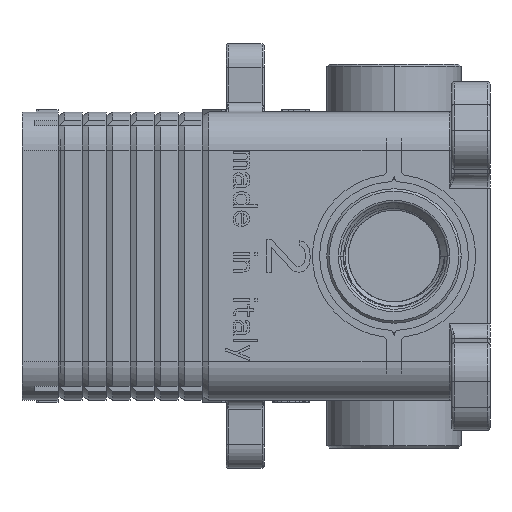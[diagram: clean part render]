
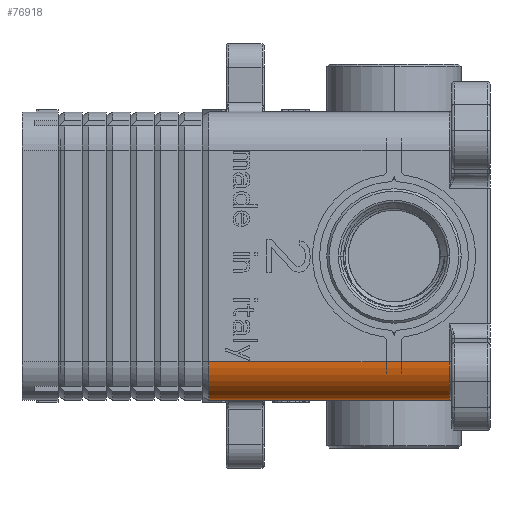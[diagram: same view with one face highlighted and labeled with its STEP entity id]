
A CAD part, front view. The second image highlights one B-rep face of the part: STEP entity #76918.
In plain terms, the highlighted cylindrical face has radius 8 mm (diameter 16 mm), a partial arc.
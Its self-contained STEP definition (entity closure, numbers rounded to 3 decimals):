
#9860=DIRECTION('',(-1.,0.,0.));
#9861=VECTOR('',#9860,50.114);
#9862=CARTESIAN_POINT('',(11.5,-112.,-30.));
#9863=LINE('',#9862,#9861);
#9864=CARTESIAN_POINT('',(-38.614,-112.,-22.));
#9865=DIRECTION('',(1.,0.,0.));
#9866=DIRECTION('',(0.,-1.,0.));
#9867=AXIS2_PLACEMENT_3D('',#9864,#9865,#9866);
#9869=DIRECTION('',(1.,0.,0.));
#9870=VECTOR('',#9869,50.114);
#9871=CARTESIAN_POINT('',(-38.614,-120.,-22.));
#9872=LINE('',#9871,#9870);
#9873=CARTESIAN_POINT('',(11.5,-112.,-22.));
#9874=DIRECTION('',(-1.,0.,0.));
#9875=DIRECTION('',(0.,0.,-1.));
#9876=AXIS2_PLACEMENT_3D('',#9873,#9874,#9875);
#52916=CARTESIAN_POINT('',(11.5,-112.,-30.));
#52917=CARTESIAN_POINT('',(11.5,-120.,-22.));
#52918=VERTEX_POINT('',#52916);
#52919=VERTEX_POINT('',#52917);
#55068=CARTESIAN_POINT('',(-38.614,-120.,-22.));
#55070=VERTEX_POINT('',#55068);
#55078=CARTESIAN_POINT('',(-38.614,-112.,-30.));
#55079=VERTEX_POINT('',#55078);
#76904=CARTESIAN_POINT('',(-26.072,-112.,-22.));
#76905=DIRECTION('',(1.,0.,0.));
#76906=DIRECTION('',(0.,-1.,0.));
#76907=AXIS2_PLACEMENT_3D('',#76904,#76905,#76906);
#76908=CYLINDRICAL_SURFACE('',#76907,8.);
#76910=ORIENTED_EDGE('',*,*,#76909,.T.);
#76912=ORIENTED_EDGE('',*,*,#76911,.F.);
#76914=ORIENTED_EDGE('',*,*,#76913,.T.);
#76915=ORIENTED_EDGE('',*,*,#76895,.F.);
#76916=EDGE_LOOP('',(#76910,#76912,#76914,#76915));
#76917=FACE_OUTER_BOUND('',#76916,.F.);
#76918=ADVANCED_FACE('',(#76917),#76908,.T.);
#9868=CIRCLE('',#9867,8.);
#9877=CIRCLE('',#9876,8.);
#76895=EDGE_CURVE('',#52918,#52919,#9877,.T.);
#76909=EDGE_CURVE('',#52918,#55079,#9863,.T.);
#76911=EDGE_CURVE('',#55070,#55079,#9868,.T.);
#76913=EDGE_CURVE('',#55070,#52919,#9872,.T.);
